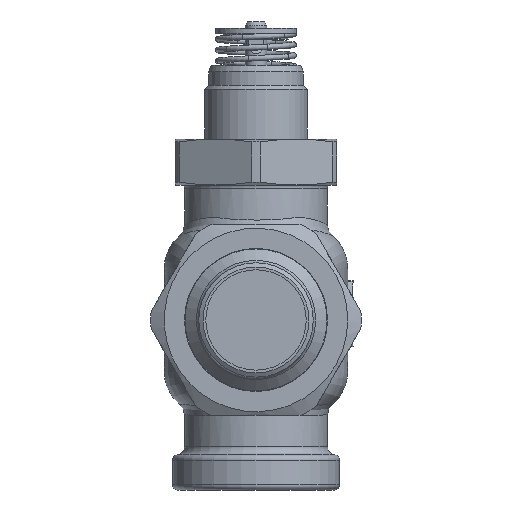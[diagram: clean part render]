
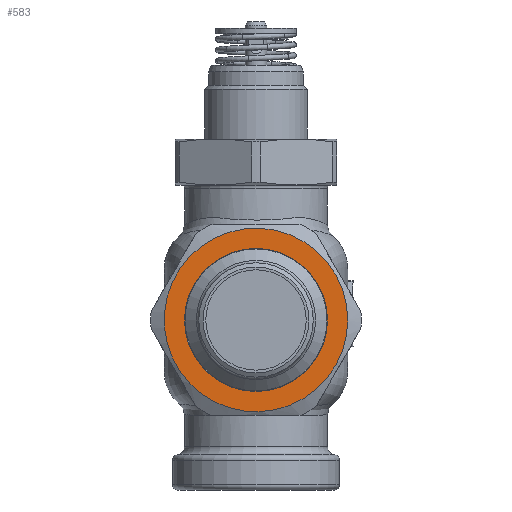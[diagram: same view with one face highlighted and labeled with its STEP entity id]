
A CAD part, left-side view. The second image highlights one B-rep face of the part: STEP entity #583.
In plain terms, the highlighted planar face has unit normal (-1, 0, 0).
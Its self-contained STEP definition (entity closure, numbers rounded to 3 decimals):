
#583=ADVANCED_FACE('',(#834,#835),#769,.T.);
#769=PLANE('',#2784);
#834=FACE_BOUND('',#1045,.T.);
#835=FACE_BOUND('',#1046,.T.);
#1045=EDGE_LOOP('',(#1359));
#1046=EDGE_LOOP('',(#1360));
#1359=ORIENTED_EDGE('',*,*,#2282,.T.);
#1360=ORIENTED_EDGE('',*,*,#2283,.T.);
#2031=VERTEX_POINT('',#3925);
#2032=VERTEX_POINT('',#3927);
#2282=EDGE_CURVE('',#2031,#2031,#2610,.T.);
#2283=EDGE_CURVE('',#2032,#2032,#2611,.T.);
#2610=CIRCLE('',#2782,26.5);
#2611=CIRCLE('',#2783,34.);
#2782=AXIS2_PLACEMENT_3D('',#3924,#3168,#3169);
#2783=AXIS2_PLACEMENT_3D('',#3926,#3170,#3171);
#2784=AXIS2_PLACEMENT_3D('',#3928,#3172,#3173);
#3168=DIRECTION('',(1.,0.,0.));
#3169=DIRECTION('',(0.,1.,0.));
#3170=DIRECTION('',(-1.,0.,0.));
#3171=DIRECTION('',(0.,-1.,0.));
#3172=DIRECTION('',(-1.,0.,0.));
#3173=DIRECTION('',(0.,-1.,0.));
#3924=CARTESIAN_POINT('',(-77.,0.,0.));
#3925=CARTESIAN_POINT('',(-77.,26.5,0.));
#3926=CARTESIAN_POINT('',(-77.,0.,0.));
#3927=CARTESIAN_POINT('',(-77.,-34.,0.));
#3928=CARTESIAN_POINT('',(-77.,0.,0.));
